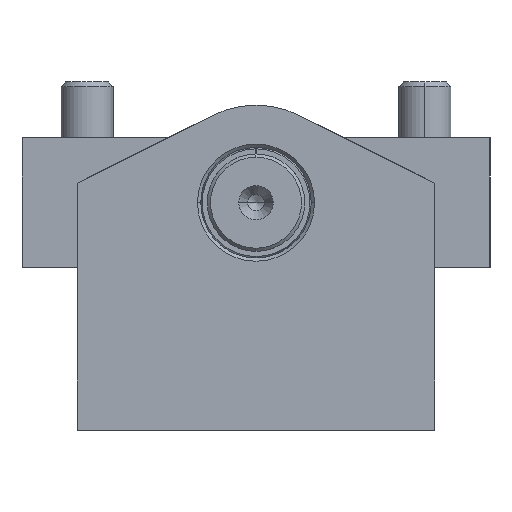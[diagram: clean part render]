
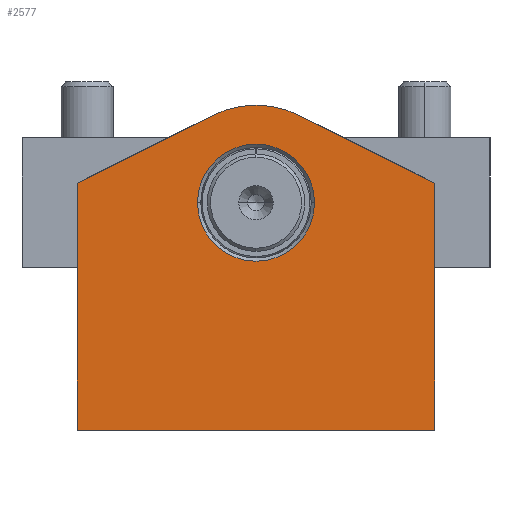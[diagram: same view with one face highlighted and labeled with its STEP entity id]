
A CAD part, front view. The second image highlights one B-rep face of the part: STEP entity #2577.
In plain terms, the highlighted planar face has unit normal (0, -1, 0).
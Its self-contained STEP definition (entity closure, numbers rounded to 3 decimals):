
#10 = VECTOR ( 'NONE', #658, 1000. ) ;
#18 = CARTESIAN_POINT ( 'NONE',  ( 9., -47., -42. ) ) ;
#162 = VERTEX_POINT ( 'NONE', #868 ) ;
#180 = ORIENTED_EDGE ( 'NONE', *, *, #3994, .T. ) ;
#287 = CARTESIAN_POINT ( 'NONE',  ( 0., -47., -42. ) ) ;
#515 = EDGE_CURVE ( 'NONE', #3792, #4397, #5424, .T. ) ;
#535 = LINE ( 'NONE', #3480, #4064 ) ;
#538 = ORIENTED_EDGE ( 'NONE', *, *, #6497, .T. ) ;
#584 = VERTEX_POINT ( 'NONE', #5389 ) ;
#605 = CARTESIAN_POINT ( 'NONE',  ( -6.719, -47., -28.589 ) ) ;
#658 = DIRECTION ( 'NONE',  ( -0.894, 0., -0.448 ) ) ;
#730 = ORIENTED_EDGE ( 'NONE', *, *, #515, .T. ) ;
#861 = CARTESIAN_POINT ( 'NONE',  ( 0., -47., -55.879 ) ) ;
#868 = CARTESIAN_POINT ( 'NONE',  ( 6.719, -47., -28.589 ) ) ;
#871 = DIRECTION ( 'NONE',  ( 0., -1., 0. ) ) ;
#891 = DIRECTION ( 'NONE',  ( 0., 0., -1. ) ) ;
#917 = ORIENTED_EDGE ( 'NONE', *, *, #4988, .F. ) ;
#1015 = DIRECTION ( 'NONE',  ( 0., 1., 0. ) ) ;
#1304 = DIRECTION ( 'NONE',  ( 1., 0., 0. ) ) ;
#1449 = CIRCLE ( 'NONE', #5133, 15. ) ;
#1470 = CARTESIAN_POINT ( 'NONE',  ( -9., -47., -42. ) ) ;
#1725 = VECTOR ( 'NONE', #891, 1000. ) ;
#1743 = CARTESIAN_POINT ( 'NONE',  ( 27.5, -47., -77. ) ) ;
#1810 = CARTESIAN_POINT ( 'NONE',  ( 0., -47., -42. ) ) ;
#1867 = DIRECTION ( 'NONE',  ( 0., -1., 0. ) ) ;
#1884 = CARTESIAN_POINT ( 'NONE',  ( -27.5, -47., -77. ) ) ;
#1918 = ORIENTED_EDGE ( 'NONE', *, *, #4392, .T. ) ;
#2140 = EDGE_CURVE ( 'NONE', #3566, #3456, #4090, .T. ) ;
#2214 = AXIS2_PLACEMENT_3D ( 'NONE', #2299, #871, #6425 ) ;
#2299 = CARTESIAN_POINT ( 'NONE',  ( 0., -47., -42. ) ) ;
#2308 = DIRECTION ( 'NONE',  ( 0., -1., 0. ) ) ;
#2359 = ORIENTED_EDGE ( 'NONE', *, *, #4652, .T. ) ;
#2464 = DIRECTION ( 'NONE',  ( -0.894, 0., 0.448 ) ) ;
#2577 = ADVANCED_FACE ( 'NONE', ( #5427, #6418 ), #4436, .F. ) ;
#2606 = ORIENTED_EDGE ( 'NONE', *, *, #6305, .T. ) ;
#2836 = AXIS2_PLACEMENT_3D ( 'NONE', #1810, #1867, #1304 ) ;
#2848 = CARTESIAN_POINT ( 'NONE',  ( 27.5, -47., -77. ) ) ;
#3240 = EDGE_LOOP ( 'NONE', ( #4702, #917 ) ) ;
#3341 = LINE ( 'NONE', #2848, #6350 ) ;
#3456 = VERTEX_POINT ( 'NONE', #1470 ) ;
#3480 = CARTESIAN_POINT ( 'NONE',  ( 6.719, -47., -28.589 ) ) ;
#3534 = CARTESIAN_POINT ( 'NONE',  ( 27.5, -47., -39. ) ) ;
#3566 = VERTEX_POINT ( 'NONE', #18 ) ;
#3664 = EDGE_LOOP ( 'NONE', ( #538, #1918, #180, #2359, #2606, #730 ) ) ;
#3700 = AXIS2_PLACEMENT_3D ( 'NONE', #861, #1015, #5921 ) ;
#3733 = VERTEX_POINT ( 'NONE', #605 ) ;
#3749 = CARTESIAN_POINT ( 'NONE',  ( -27.5, -47., -39. ) ) ;
#3792 = VERTEX_POINT ( 'NONE', #5631 ) ;
#3994 = EDGE_CURVE ( 'NONE', #584, #162, #535, .T. ) ;
#4064 = VECTOR ( 'NONE', #2464, 1000. ) ;
#4090 = CIRCLE ( 'NONE', #2836, 9. ) ;
#4322 = DIRECTION ( 'NONE',  ( -0.448, 0., 0.894 ) ) ;
#4392 = EDGE_CURVE ( 'NONE', #4920, #584, #6541, .T. ) ;
#4395 = DIRECTION ( 'NONE',  ( 1., 0., 0. ) ) ;
#4397 = VERTEX_POINT ( 'NONE', #5543 ) ;
#4436 = PLANE ( 'NONE',  #3700 ) ;
#4652 = EDGE_CURVE ( 'NONE', #162, #3733, #1449, .T. ) ;
#4702 = ORIENTED_EDGE ( 'NONE', *, *, #2140, .F. ) ;
#4920 = VERTEX_POINT ( 'NONE', #1743 ) ;
#4988 = EDGE_CURVE ( 'NONE', #3456, #3566, #6532, .T. ) ;
#5133 = AXIS2_PLACEMENT_3D ( 'NONE', #287, #2308, #4322 ) ;
#5389 = CARTESIAN_POINT ( 'NONE',  ( 27.5, -47., -39. ) ) ;
#5424 = LINE ( 'NONE', #1884, #1725 ) ;
#5427 = FACE_BOUND ( 'NONE', #3240, .T. ) ;
#5543 = CARTESIAN_POINT ( 'NONE',  ( -27.5, -47., -77. ) ) ;
#5631 = CARTESIAN_POINT ( 'NONE',  ( -27.5, -47., -39. ) ) ;
#5869 = VECTOR ( 'NONE', #6478, 1000. ) ;
#5921 = DIRECTION ( 'NONE',  ( -1., 0., 0. ) ) ;
#6256 = LINE ( 'NONE', #3749, #10 ) ;
#6305 = EDGE_CURVE ( 'NONE', #3733, #3792, #6256, .T. ) ;
#6350 = VECTOR ( 'NONE', #4395, 1000. ) ;
#6418 = FACE_OUTER_BOUND ( 'NONE', #3664, .T. ) ;
#6425 = DIRECTION ( 'NONE',  ( 1., 0., 0. ) ) ;
#6478 = DIRECTION ( 'NONE',  ( 0., 0., 1. ) ) ;
#6497 = EDGE_CURVE ( 'NONE', #4397, #4920, #3341, .T. ) ;
#6532 = CIRCLE ( 'NONE', #2214, 9. ) ;
#6541 = LINE ( 'NONE', #3534, #5869 ) ;
